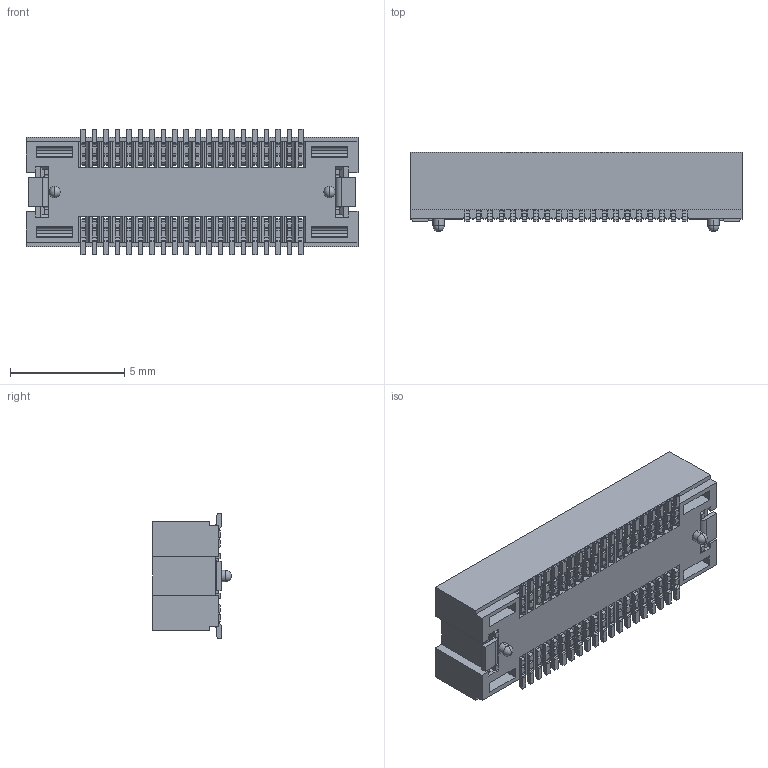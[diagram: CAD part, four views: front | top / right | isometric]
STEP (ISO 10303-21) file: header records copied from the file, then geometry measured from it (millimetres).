
FILE_DESCRIPTION (( 'STEP AP203' ), '1' );
FILE_NAME ('CBRB040SC2FP1R0-NH.STEP', '2018-08-07T06:10:12', ( '' ), ( '' ), 'SwSTEP 2.0', 'SolidWorks 2017', '' );
FILE_SCHEMA (( 'CONFIG_CONTROL_DESIGN' ));
Length unit declared in the file: millimetre
Products named in the file (4): CBRB-S%-BASE_SC 40; CBRB-S-T-4; CBRB-TAB; CBRB040SC2FP1R0-NH
Assembly tree (23 placements, depth 2):
  CBRB040SC2FP1R0-NH
    CBRB-S%-BASE_SC 40
    CBRB-S-T-4  x20
    CBRB-TAB  x2
Bounding box: 14.5 x 3.45 x 5.5 mm (x, y, z)
Volume: 111.1 mm3; surface area: 761.3 mm2
Topology: 63 solids, 63 shells, 2633 faces, 7684 edges, 5062 vertices
Faces by surface type: plane 1907, cylinder 722, torus 4
Entity records: 33056 total; most frequent: ORIENTED_EDGE 5832, CARTESIAN_POINT 5825, DIRECTION 5050, EDGE_CURVE 2916, VECTOR 2680, LINE 2680, VERTEX_POINT 1884, AXIS2_PLACEMENT_3D 1185
